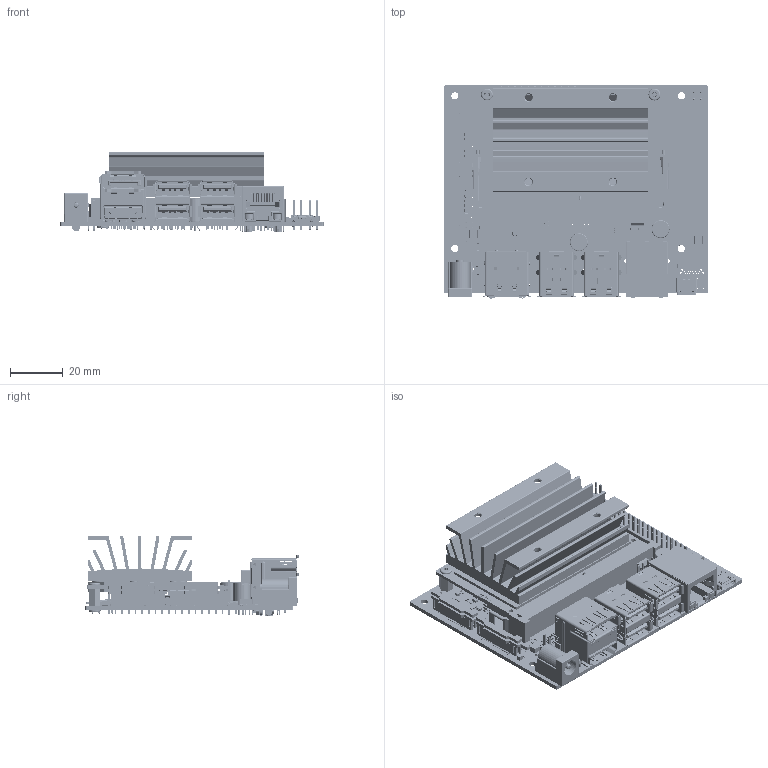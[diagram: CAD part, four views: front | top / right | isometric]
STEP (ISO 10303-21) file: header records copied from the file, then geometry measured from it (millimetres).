
FILE_DESCRIPTION((''),'2;1');
FILE_NAME('675-13450_PORG_DEV_KIT_TOP_ASSY','2019-05-09T',('ysung'),('.'),'CREO PARAMETRIC BY PTC INC, 2018070','CREO PARAMETRIC BY PTC INC, 2018070','');
FILE_SCHEMA(('CONFIG_CONTROL_DESIGN','GEOMETRIC_VALIDATION_PROPERTIES_MIM'));
Products named in the file (92): 142-13449-1000-B01-SKU0000; 316-0613-000_2; 080-1656-000_3; 300-1128-000_1; 074-0239-000_1; 115-0655-000_3; 315-1117-000_1; 315-1109-000_1; 115-2628-000_3; 174-0159-000_2; 064-0400-000_1; 130-0938-000_1; 032-1441-000_1; 090-0377-000_1; 0402_H040; 0402_H060; VIRTUAL_SHORT; 064-0377-000_2; 074-0117-000_2; 090-0096-000_1; 090-0309-000_1; 090-0231-000_1; 090-0296-000_2; LOGO_SILK_UL_ITE204896_I380_B; LOGO_SILK_CE_I0175X0160; LS_ICES_I0925X0040_CLASS_B; 315-1062-000_1; 315-0620-000_1; 115-0138-000_1; 115-1821-000_1; 115-0742-000_2; 091-0022-000_1; 091-0023-000_1; 080-1368-000_1; LOGO_SILK_POSTAL_ADDRESS; LL_VENDOR_DATECODE_BOT_1R; 090-0172-000_1; 090-0243-000_1; LOGO_SILK_HF_I0185X0120; LOGO_SILK_BSMI_I0138H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
Assembly tree (421 placements, depth 6):
  675-13450_PORG_DEV_KIT_TOP_ASSY
    642-13450_PORG_SYS_BOM
      699-13449_PORG_DEV_KIT_PCB_ASSY
        600-13449_PORG_DEV_KIT_PCB_ASSY
          142-13449-1000-B01-SKU0000
            142-13449-1000-B01-SKU0000
            316-0613-000_2
            080-1656-000_3
            300-1128-000_1  x2
            074-0239-000_1
            115-0655-000_3
            315-1117-000_1
            315-1109-000_1  x2
            115-2628-000_3
            174-0159-000_2
            064-0400-000_1
            130-0938-000_1
            032-1441-000_1  x2
            090-0377-000_1
            0402_H040  x134
            0402_H060  x83
            VIRTUAL_SHORT  x16
            064-0377-000_2
            074-0117-000_2
            090-0096-000_1
            090-0309-000_1
            090-0231-000_1  x9
            090-0296-000_2  x2
            LOGO_SILK_UL_ITE204896_I380_B
            LOGO_SILK_CE_I0175X0160
            LS_ICES_I0925X0040_CLASS_B
            315-1062-000_1  x2
            315-0620-000_1
            115-0138-000_1  x3
            115-1821-000_1  x2
            115-0742-000_2  x2
            091-0022-000_1
            091-0023-000_1
            080-1368-000_1
            LOGO_SILK_POSTAL_ADDRESS
            LL_VENDOR_DATECODE_BOT_1R
            090-0172-000_1  x26
            090-0243-000_1  x11
            LOGO_SILK_HF_I0185X0120
            LOGO_SILK_BSMI_I0138H
            LOGO_SILK_RCM_040X030
            LOGO_SILK_VCCI_I0300X0225
            LOGO_SILK_WEEE_0485X0683
            LOGO_SILK_ROHS_I0300X0153
            LOGO_SILK_ROHS_D050_CHINA
            LOGO_SILK_NVIDIA_I0600X0330
            FID_40_80SM  x6
            115-2177-000_2
            090-0378-000_1
            090-0233-000_1
            064-0374-000_2
            092-0073-000_1
            IND_SMD_0402_H060
            1206_H190  x2
            300-0868-000_3  x11
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Bounding box: 100 x 81.03 x 30.51 mm (x, y, z)
Volume: 56746.6 mm3; surface area: 86643.8 mm2
Topology: 893 solids, 925 shells, 36514 faces, 98610 edges, 64791 vertices
Faces by surface type: plane 31010, cylinder 4951, bspline 169, cone 167, sphere 100, torus 99, extrusion 18
Entity records: 1048649 total; most frequent: CARTESIAN_POINT 153903, ORIENTED_EDGE 141738, DIRECTION 131177, EDGE_CURVE 70869, VECTOR 61529, LINE 61511, PRESENTATION_STYLE_ASSIGNMENT 52772, STYLED_ITEM 49784
